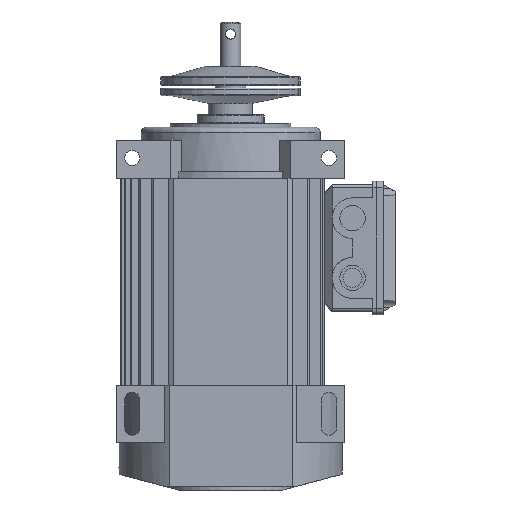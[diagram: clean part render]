
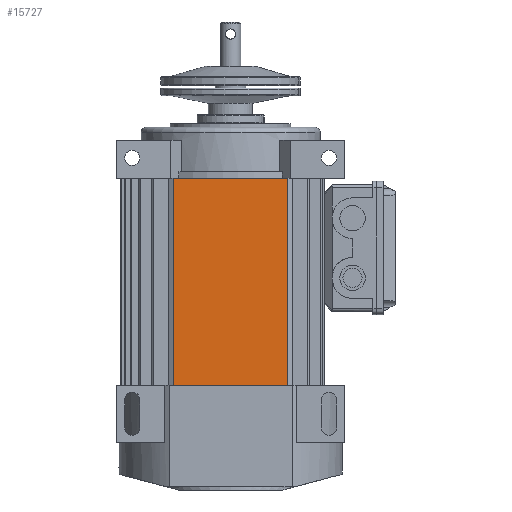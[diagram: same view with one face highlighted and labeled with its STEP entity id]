
A CAD part, front view. The second image highlights one B-rep face of the part: STEP entity #15727.
In plain terms, the highlighted planar face has unit normal (0, -1, 0).
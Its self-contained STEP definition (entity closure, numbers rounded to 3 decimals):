
#4849 = VECTOR ( 'NONE', #29186, 1000. ) ;
#4876 = VECTOR ( 'NONE', #29267, 1000. ) ;
#6508 = FACE_OUTER_BOUND ( 'NONE', #7622, .T. ) ;
#6511 = AXIS2_PLACEMENT_3D ( 'NONE', #36665, #36666, #36667 ) ;
#7200 = VECTOR ( 'NONE', #37600, 1000. ) ;
#7202 = VECTOR ( 'NONE', #37603, 1000. ) ;
#7622 = EDGE_LOOP ( 'NONE', ( #16536, #16537, #16534, #16538 ) ) ;
#11576 = EDGE_CURVE ( 'NONE', #14955, #14954, #29184, .T. ) ;
#11603 = EDGE_CURVE ( 'NONE', #12019, #12023, #29265, .T. ) ;
#12019 = VERTEX_POINT ( 'NONE', #30504 ) ;
#12023 = VERTEX_POINT ( 'NONE', #30508 ) ;
#14954 = VERTEX_POINT ( 'NONE', #36292 ) ;
#14955 = VERTEX_POINT ( 'NONE', #36293 ) ;
#15727 = ADVANCED_FACE ( 'NONE', ( #6508 ), #36664, .T. ) ;
#15972 = EDGE_CURVE ( 'NONE', #12023, #14954, #37598, .T. ) ;
#15973 = EDGE_CURVE ( 'NONE', #14955, #12019, #37601, .T. ) ;
#16534 = ORIENTED_EDGE ( 'NONE', *, *, #11576, .F. ) ;
#16536 = ORIENTED_EDGE ( 'NONE', *, *, #11603, .T. ) ;
#16537 = ORIENTED_EDGE ( 'NONE', *, *, #15972, .T. ) ;
#16538 = ORIENTED_EDGE ( 'NONE', *, *, #15973, .T. ) ;
#29184 = LINE ( 'NONE', #29185, #4849 ) ;
#29185 = CARTESIAN_POINT ( 'NONE',  ( -99., -74.5, 163. ) ) ;
#29186 = DIRECTION ( 'NONE',  ( 1., 0., 0. ) ) ;
#29265 = LINE ( 'NONE', #29266, #4876 ) ;
#29266 = CARTESIAN_POINT ( 'NONE',  ( -99., -74.5, 0. ) ) ;
#29267 = DIRECTION ( 'NONE',  ( 1., 0., 0. ) ) ;
#30504 = CARTESIAN_POINT ( 'NONE',  ( -44.931, -74.5, 0. ) ) ;
#30508 = CARTESIAN_POINT ( 'NONE',  ( 44.931, -74.5, 0. ) ) ;
#36292 = CARTESIAN_POINT ( 'NONE',  ( 44.931, -74.5, 163. ) ) ;
#36293 = CARTESIAN_POINT ( 'NONE',  ( -44.931, -74.5, 163. ) ) ;
#36664 = PLANE ( 'NONE',  #6511 ) ;
#36665 = CARTESIAN_POINT ( 'NONE',  ( -99., -74.5, 0. ) ) ;
#36666 = DIRECTION ( 'NONE',  ( 0., -1., 0. ) ) ;
#36667 = DIRECTION ( 'NONE',  ( 0., 0., -1. ) ) ;
#37598 = LINE ( 'NONE', #37599, #7200 ) ;
#37599 = CARTESIAN_POINT ( 'NONE',  ( 44.931, -74.5, 0. ) ) ;
#37600 = DIRECTION ( 'NONE',  ( 0., 0., 1. ) ) ;
#37601 = LINE ( 'NONE', #37602, #7202 ) ;
#37602 = CARTESIAN_POINT ( 'NONE',  ( -44.931, -74.5, 0. ) ) ;
#37603 = DIRECTION ( 'NONE',  ( 0., 0., -1. ) ) ;
